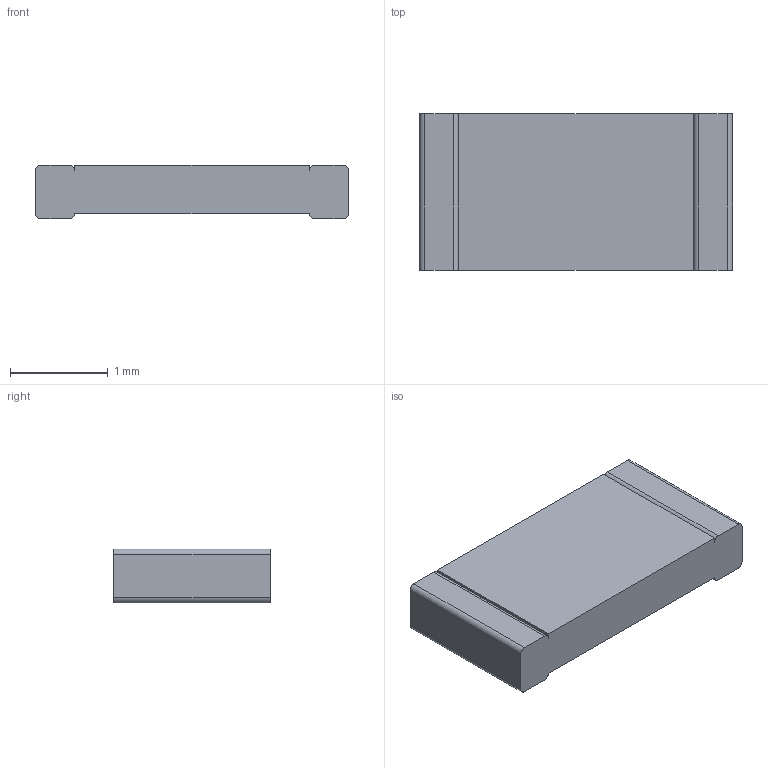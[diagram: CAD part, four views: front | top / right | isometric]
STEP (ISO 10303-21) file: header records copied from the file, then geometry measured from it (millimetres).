
FILE_DESCRIPTION(/* description */ ('STEP AP242 Edition 2','CAx-IF Rec.Pracs.---Representation and Presentation of Product Manufacturing Information (PMI)---4.0---2014-10-13','CAx-IF Rec.Pracs.---3D Tessellated Geometry---0.4---2014-09-14','2;1','CAx-IF Rec.Pracs.---User Defined Attributes---1.5---2016-08-15'),/* implementation_level */ '2;1');
FILE_NAME(/* name */ 'bb_v3 - R_1206_3216Metric_1',/* time_stamp */ '2026-05-01T07:59:50Z',/* author */ (''),/* organization */ (''),/* preprocessor_version */ 'ST-DEVELOPER v20',/* originating_system */ 'ONSHAPE BY PTC INC, 1.214',/* authorisation */ ' ');
FILE_SCHEMA (('AP242_MANAGED_MODEL_BASED_3D_ENGINEERING_MIM_LF { 1 0 10303 442 3 1 4 }'));
Length unit declared in the file: metre
Products named in the file (1): R_1206_3216Metric_1
Bounding box: 3.2 x 1.6 x 0.55 mm (x, y, z)
Volume: 2.6 mm3; surface area: 15.5 mm2
Topology: 1 solids, 1 shells, 20 faces, 54 edges, 36 vertices
Faces by surface type: plane 12, cylinder 8
Entity records: 686 total; most frequent: DIRECTION 112, CARTESIAN_POINT 111, ORIENTED_EDGE 108, EDGE_CURVE 54, LINE 38, VECTOR 38, AXIS2_PLACEMENT_3D 37, VERTEX_POINT 36
